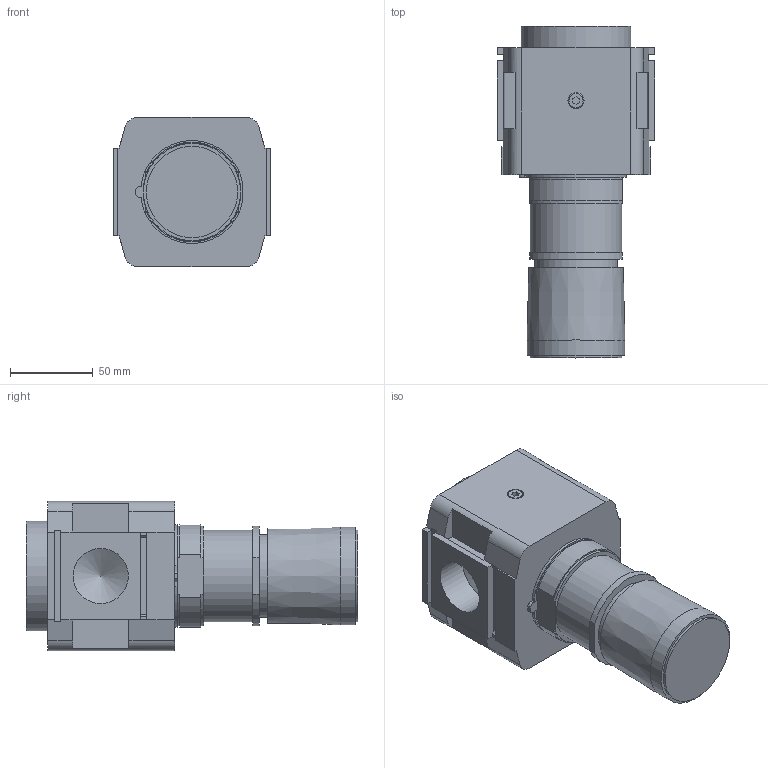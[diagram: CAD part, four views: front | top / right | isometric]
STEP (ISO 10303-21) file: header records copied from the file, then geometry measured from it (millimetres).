
FILE_DESCRIPTION(/* description */ ('STEP AP203'),/* implementation_level */ '2;1');
FILE_NAME(/* name */ 'AR60-10-D(1)',/* time_stamp */ '2026-03-25T01:59:19+01:00',/* author */ ('License CC BY-ND 4.0'),/* organization */ ('CADENAS'),/* preprocessor_version */ 'ST-DEVELOPER v20',/* originating_system */ 'PARTsolutions',/* authorisation */ ' ');
FILE_SCHEMA (('CONFIG_CONTROL_DESIGN'));
Length unit declared in the file: millimetre
Products named in the file (4): AR60-10-D(1); AR60-10-D(1)_BODY; AC60-D_BOWL1; 1/8
Assembly tree (4 placements, depth 2):
  AR60-10-D(1)
    AR60-10-D(1)_BODY
    AC60-D_BOWL1
    1/8  x2
Bounding box: 95 x 200 x 90 mm (x, y, z)
Volume: 883654.4 mm3; surface area: 82777.2 mm2
Topology: 4 solids, 4 shells, 197 faces, 503 edges, 328 vertices
Faces by surface type: plane 152, cylinder 35, cone 10
Full cylindrical faces by diameter (mm): 9.728 x4, 33.249 x2, 50 x1, 55 x2, 59.8 x1, 66.3 x1
Entity records: 5514 total; most frequent: CARTESIAN_POINT 950, DIRECTION 914, ORIENTED_EDGE 904, EDGE_CURVE 452, LINE 370, VECTOR 370, VERTEX_POINT 308, AXIS2_PLACEMENT_3D 272
